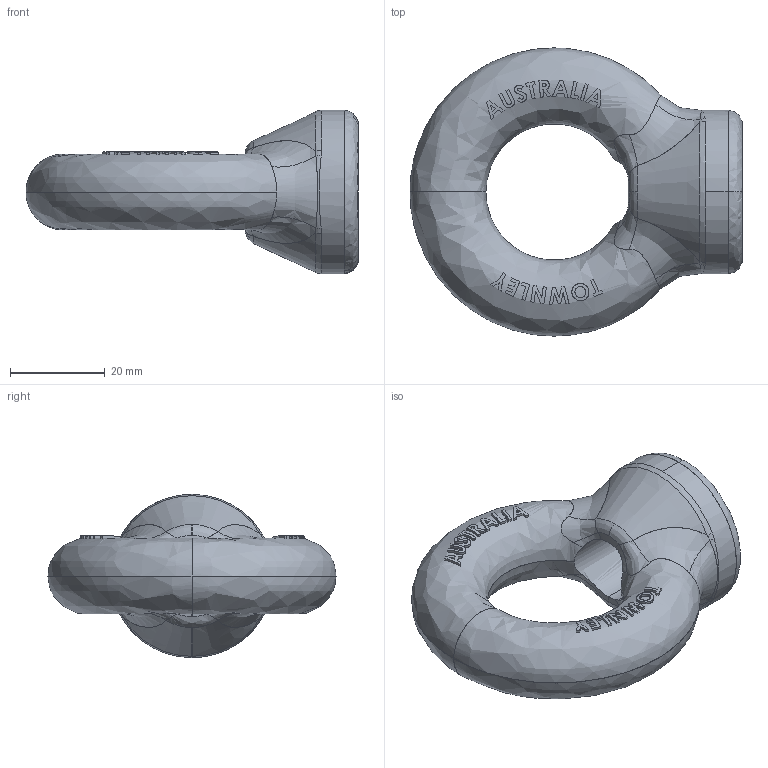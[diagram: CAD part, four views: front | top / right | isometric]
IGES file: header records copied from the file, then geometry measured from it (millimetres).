
Start section: SolidWorks IGES FILE using analytic representation for surfaces
Global section: file name: C:\Documents and Settings\Townley Workstation\Desktop\tooling\Townley products\Eye nuts\ENB16\Model\Finished part drawings\ENMC16.IGS; native system: SolidWorks 2004 by SolidWorks Corporation; preprocessor: Version 5.3; author: Townley Workstation; date: 100212.121637; units: millimetre
Bounding box: 69.91 x 60.7 x 34.4 mm (x, y, z)
Surface area: 9893.4 mm2 (no closed solid volume)
Topology: 0 solids, 0 shells, 225 faces, 2453 edges, 2453 vertices
Faces by surface type: bspline 213, revolution 12
